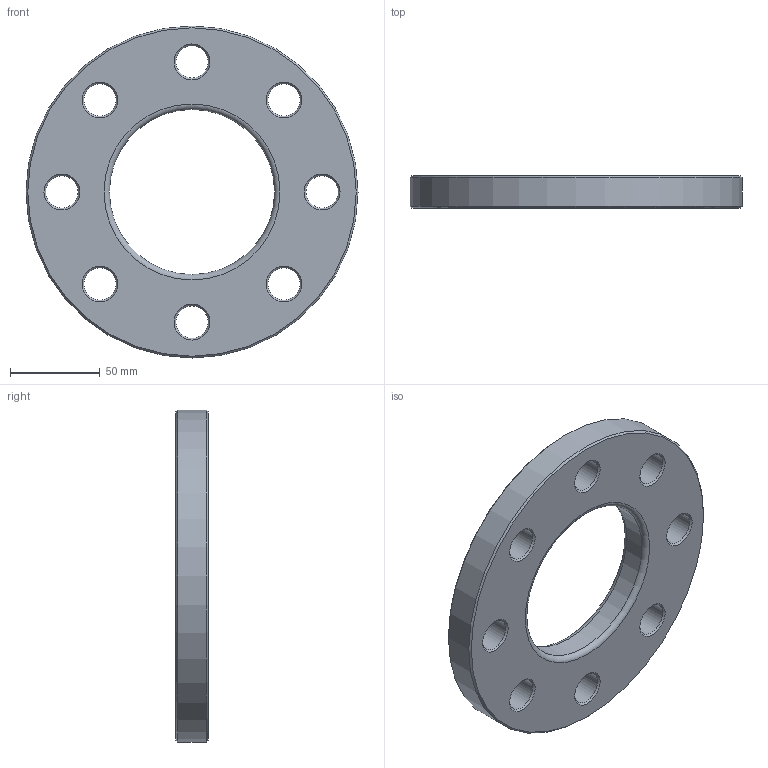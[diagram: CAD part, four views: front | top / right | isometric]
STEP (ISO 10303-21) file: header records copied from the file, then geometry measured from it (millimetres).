
FILE_DESCRIPTION(/* description */ ('Unknown'),/* implementation_level */ '2;1');
FILE_NAME(/* name */ 'FZ075L',/* time_stamp */ '2021-03-15T15:20:02+01:00',/* author */ ('Unknown'),/* organization */ ('Unknown'),/* preprocessor_version */ 'ST-DEVELOPER v16.7',/* originating_system */ 'Solid Edge',/* authorisation */ 'Unknown');
FILE_SCHEMA (('AUTOMOTIVE_DESIGN {1 0 10303 214 3 1 1}'));
Length unit declared in the file: millimetre
Products named in the file (1): FZ075L
Bounding box: 185 x 18 x 185 mm (x, y, z)
Volume: 325363.1 mm3; surface area: 58271.8 mm2
Topology: 1 solids, 1 shells, 32 faces, 94 edges, 64 vertices
Faces by surface type: cone 18, cylinder 10, plane 2, torus 2
Full cylindrical faces by diameter (mm): 18 x8, 92 x1, 185 x1
Entity records: 790 total; most frequent: DIRECTION 146, CARTESIAN_POINT 113, ORIENTED_EDGE 80, EDGE_LOOP 80, FACE_BOUND 80, AXIS2_PLACEMENT_3D 73, EDGE_CURVE 40, VERTEX_POINT 40
